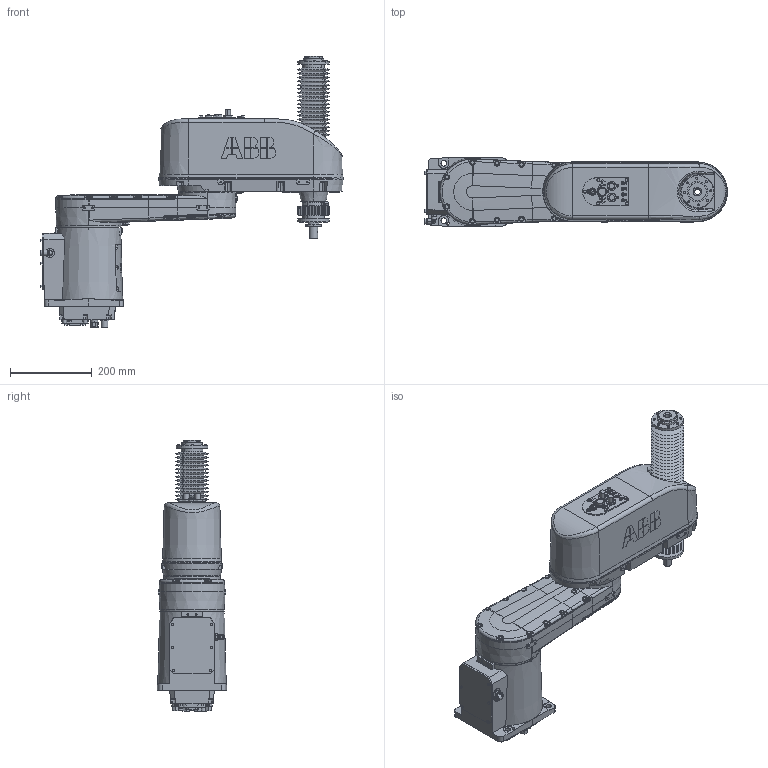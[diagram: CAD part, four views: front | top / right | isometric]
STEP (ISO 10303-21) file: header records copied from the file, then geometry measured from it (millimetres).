
FILE_DESCRIPTION (( 'STEP AP214' ), '1' );
FILE_NAME ('IRB920T_6kg-550-145-CR-BTM_OmniCore_rev00_Assembly.step', '2021-10-28T02:19:45', ( '' ), ( '' ), 'SwSTEP 2.0', 'SolidWorks 2018', '' );
FILE_SCHEMA (( 'AUTOMOTIVE_DESIGN' ));
Length unit declared in the file: millimetre
Products named in the file (5): IRB920T_6kg-550-145-IP54CR-BTM_OmniCore_rev00_LINK1_CAD; IRB920T_6kg-550-145-CR-BTM_OmniCore_rev00_LINK0_CAD; IRB920T_6kg-550-145-IP54CR-BTM_OmniCore_rev00_LINK2_CAD; IRB920T_6kg-550-145-CR-BTM_OmniCore_rev00_Assembly; IRB920T_6kg-550-145-IP54CR-BTM_OmniCore_rev00_LINK3_CAD
Assembly tree (4 placements, depth 2):
  IRB920T_6kg-550-145-CR-BTM_OmniCore_rev00_Assembly
    IRB920T_6kg-550-145-CR-BTM_OmniCore_rev00_LINK0_CAD
    IRB920T_6kg-550-145-IP54CR-BTM_OmniCore_rev00_LINK1_CAD
    IRB920T_6kg-550-145-IP54CR-BTM_OmniCore_rev00_LINK2_CAD
    IRB920T_6kg-550-145-IP54CR-BTM_OmniCore_rev00_LINK3_CAD
Bounding box: 739.75 x 170 x 663.63 mm (x, y, z)
Volume: 19922195.5 mm3; surface area: 1031747.8 mm2
Topology: 4 solids, 4 shells, 2562 faces, 6448 edges, 4139 vertices
Faces by surface type: plane 1289, cylinder 477, bspline 392, cone 387, torus 14, sphere 3
Entity records: 106965 total; most frequent: CARTESIAN_POINT 38817, ORIENTED_EDGE 12746, DIRECTION 10544, EDGE_CURVE 6373, VERTEX_POINT 4138, VECTOR 3706, LINE 3706, AXIS2_PLACEMENT_3D 3419
